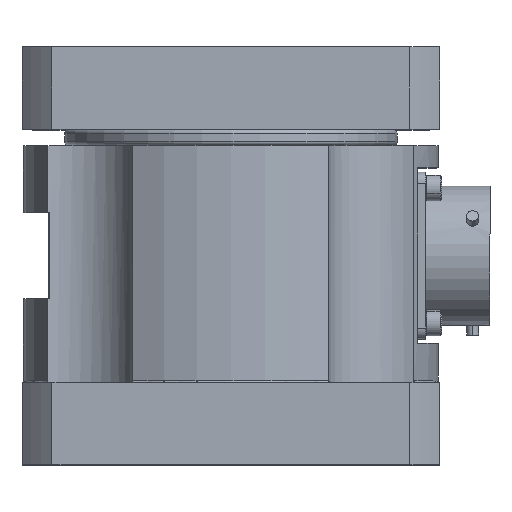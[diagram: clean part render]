
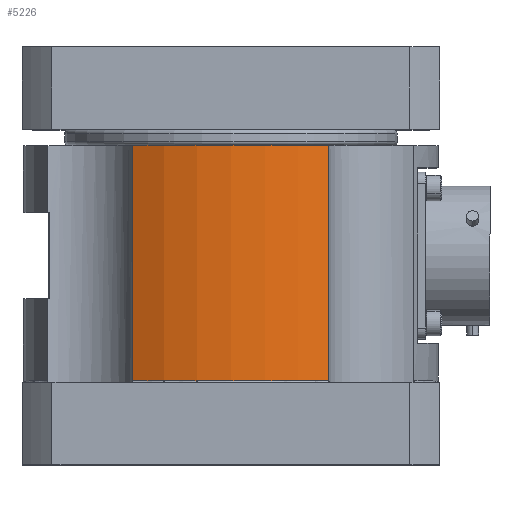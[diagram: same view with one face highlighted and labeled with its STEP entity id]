
A CAD part, top view. The second image highlights one B-rep face of the part: STEP entity #5226.
In plain terms, the highlighted cylindrical face has radius 37.846 mm (diameter 75.692 mm), a partial arc.
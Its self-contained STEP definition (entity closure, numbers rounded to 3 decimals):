
#1381 = CIRCLE ( 'NONE', #12803, 37.846 ) ;
#2740 = LINE ( 'NONE', #23020, #17000 ) ;
#4268 = CARTESIAN_POINT ( 'NONE',  ( -17.873, 38.024, 33.36 ) ) ;
#4513 = CARTESIAN_POINT ( 'NONE',  ( 17.873, 58.217, 33.36 ) ) ;
#4668 = EDGE_CURVE ( 'NONE', #14300, #8464, #12613, .T. ) ;
#4865 = DIRECTION ( 'NONE',  ( 0., -1., 0. ) ) ;
#5226 = ADVANCED_FACE ( 'NONE', ( #23713 ), #26089, .T. ) ;
#5569 = CARTESIAN_POINT ( 'NONE',  ( 0., 15.037, 0. ) ) ;
#6269 = AXIS2_PLACEMENT_3D ( 'NONE', #5569, #21715, #11788 ) ;
#7204 = DIRECTION ( 'NONE',  ( 0., 1., 0. ) ) ;
#7675 = ORIENTED_EDGE ( 'NONE', *, *, #18457, .F. ) ;
#8319 = ORIENTED_EDGE ( 'NONE', *, *, #19095, .F. ) ;
#8464 = VERTEX_POINT ( 'NONE', #21794 ) ;
#10499 = AXIS2_PLACEMENT_3D ( 'NONE', #25367, #7204, #21508 ) ;
#11788 = DIRECTION ( 'NONE',  ( -1., 0., 0. ) ) ;
#11963 = DIRECTION ( 'NONE',  ( 0., 1., 0. ) ) ;
#12283 = CARTESIAN_POINT ( 'NONE',  ( -17.873, 15.291, 33.36 ) ) ;
#12613 = CIRCLE ( 'NONE', #10499, 37.846 ) ;
#12803 = AXIS2_PLACEMENT_3D ( 'NONE', #21445, #17345, #23452 ) ;
#14300 = VERTEX_POINT ( 'NONE', #12283 ) ;
#15932 = EDGE_LOOP ( 'NONE', ( #7675, #22907, #8319, #19369 ) ) ;
#17000 = VECTOR ( 'NONE', #4865, 1000. ) ;
#17345 = DIRECTION ( 'NONE',  ( 0., -1., 0. ) ) ;
#18457 = EDGE_CURVE ( 'NONE', #14300, #23342, #22284, .T. ) ;
#18606 = EDGE_CURVE ( 'NONE', #24423, #23342, #1381, .T. ) ;
#19095 = EDGE_CURVE ( 'NONE', #24423, #8464, #2740, .T. ) ;
#19369 = ORIENTED_EDGE ( 'NONE', *, *, #18606, .T. ) ;
#21208 = CARTESIAN_POINT ( 'NONE',  ( -17.873, 58.217, 33.36 ) ) ;
#21445 = CARTESIAN_POINT ( 'NONE',  ( 0., 58.217, 0. ) ) ;
#21508 = DIRECTION ( 'NONE',  ( -1., 0., 0. ) ) ;
#21715 = DIRECTION ( 'NONE',  ( 0., 1., 0. ) ) ;
#21794 = CARTESIAN_POINT ( 'NONE',  ( 17.873, 15.291, 33.36 ) ) ;
#22125 = VECTOR ( 'NONE', #11963, 1000. ) ;
#22284 = LINE ( 'NONE', #4268, #22125 ) ;
#22907 = ORIENTED_EDGE ( 'NONE', *, *, #4668, .T. ) ;
#23020 = CARTESIAN_POINT ( 'NONE',  ( 17.873, 38.024, 33.36 ) ) ;
#23342 = VERTEX_POINT ( 'NONE', #21208 ) ;
#23452 = DIRECTION ( 'NONE',  ( -1., 0., 0. ) ) ;
#23713 = FACE_OUTER_BOUND ( 'NONE', #15932, .T. ) ;
#24423 = VERTEX_POINT ( 'NONE', #4513 ) ;
#25367 = CARTESIAN_POINT ( 'NONE',  ( 0., 15.291, 0. ) ) ;
#26089 = CYLINDRICAL_SURFACE ( 'NONE', #6269, 37.846 ) ;
